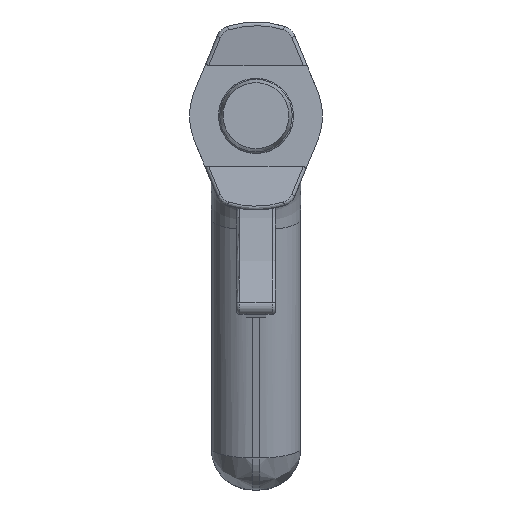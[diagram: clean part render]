
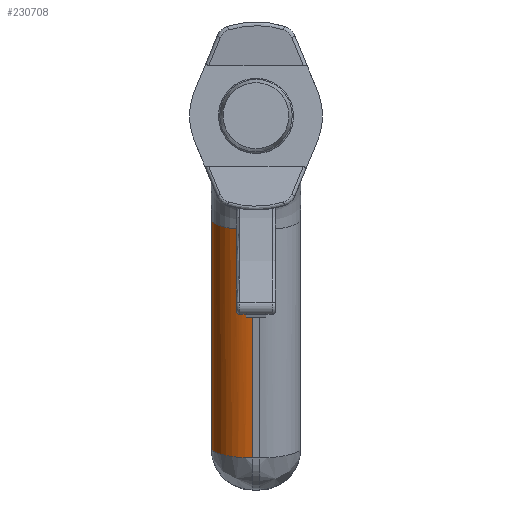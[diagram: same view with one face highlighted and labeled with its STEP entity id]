
A CAD part, top view. The second image highlights one B-rep face of the part: STEP entity #230708.
In plain terms, the highlighted cylindrical face has radius 12.497 mm (diameter 24.994 mm), a partial arc.
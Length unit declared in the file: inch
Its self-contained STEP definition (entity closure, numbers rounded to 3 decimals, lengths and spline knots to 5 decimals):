
#230368=CARTESIAN_POINT('',(-0.2345,-2.29104,-1.64583));
#230369=VERTEX_POINT('',#230368);
#230377=CARTESIAN_POINT('',(-0.118,-2.30264,-1.61445));
#230378=VERTEX_POINT('',#230377);
#230379=CARTESIAN_POINT('',(-0.118,-2.30264,-1.61445));
#230380=CARTESIAN_POINT('',(-0.1561,-2.30062,-1.62007));
#230381=CARTESIAN_POINT('',(-0.19428,-2.297,-1.63013));
#230382=CARTESIAN_POINT('',(-0.23187,-2.29144,-1.64479));
#230383=CARTESIAN_POINT('',(-0.23319,-2.29124,-1.64531));
#230384=CARTESIAN_POINT('',(-0.2345,-2.29104,-1.64583));
#230385=B_SPLINE_CURVE_WITH_KNOTS('',3,(#230379,#230380,#230381,#230382,#230383,#230384),.UNSPECIFIED.,.F.,.U.,(4,2,4),(4.14919,4.43144,4.4417),.UNSPECIFIED.);
#230386=EDGE_CURVE('',#230378,#230369,#230385,.T.);
#230403=CARTESIAN_POINT('',(-0.2345,-1.34785,-1.3931));
#230404=VERTEX_POINT('',#230403);
#230405=CARTESIAN_POINT('',(-0.2345,-2.29104,-1.64583));
#230406=DIRECTION('',(0.0,0.966,0.259));
#230407=VECTOR('',#230406,0.97647);
#230408=LINE('',#230405,#230407);
#230409=EDGE_CURVE('',#230369,#230404,#230408,.T.);
#230650=CARTESIAN_POINT('',(-0.042,-2.3352,-2.12642));
#230651=DIRECTION('',(0.0,-0.966,-0.259));
#230652=DIRECTION('',(-0.707,-0.183,0.683));
#230653=AXIS2_PLACEMENT_3D('',#230650,#230651,#230652);
#230654=CYLINDRICAL_SURFACE('',#230653,0.492);
#230655=ORIENTED_EDGE('',*,*,#230386,.T.);
#230656=ORIENTED_EDGE('',*,*,#230409,.T.);
#230657=CARTESIAN_POINT('',(-0.534,-1.23066,-1.83045));
#230658=VERTEX_POINT('',#230657);
#230659=CARTESIAN_POINT('',(-0.042,-1.23066,-1.83045));
#230660=DIRECTION('',(0.0,-0.966,-0.259));
#230661=DIRECTION('',(0.0,-0.259,0.966));
#230662=AXIS2_PLACEMENT_3D('',#230659,#230660,#230661);
#230663=CIRCLE('',#230662,0.492);
#230664=EDGE_CURVE('',#230404,#230658,#230663,.T.);
#230665=ORIENTED_EDGE('',*,*,#230664,.T.);
#230666=CARTESIAN_POINT('',(-0.534,-3.95218,-2.55968));
#230667=VERTEX_POINT('',#230666);
#230668=CARTESIAN_POINT('',(-0.534,-3.95218,-2.55968));
#230669=DIRECTION('',(0.0,0.966,0.259));
#230670=VECTOR('',#230669,2.81752);
#230671=LINE('',#230668,#230670);
#230672=EDGE_CURVE('',#230667,#230658,#230671,.T.);
#230673=ORIENTED_EDGE('',*,*,#230672,.F.);
#230674=CARTESIAN_POINT('',(-0.042,-4.07952,-2.08445));
#230675=VERTEX_POINT('',#230674);
#230676=CARTESIAN_POINT('',(-0.042,-3.95218,-2.55968));
#230677=DIRECTION('',(0.0,-0.966,-0.259));
#230678=DIRECTION('',(0.0,-0.259,0.966));
#230679=AXIS2_PLACEMENT_3D('',#230676,#230677,#230678);
#230680=CIRCLE('',#230679,0.492);
#230681=EDGE_CURVE('',#230675,#230667,#230680,.T.);
#230682=ORIENTED_EDGE('',*,*,#230681,.F.);
#230683=CARTESIAN_POINT('',(-0.042,-2.31629,-1.61199));
#230684=VERTEX_POINT('',#230683);
#230685=CARTESIAN_POINT('',(-0.042,-2.31629,-1.61199));
#230686=DIRECTION('',(0.0,-0.966,-0.259));
#230687=VECTOR('',#230686,1.82543);
#230688=LINE('',#230685,#230687);
#230689=EDGE_CURVE('',#230684,#230675,#230688,.T.);
#230690=ORIENTED_EDGE('',*,*,#230689,.F.);
#230691=CARTESIAN_POINT('',(-0.118,-2.31476,-1.61769));
#230692=VERTEX_POINT('',#230691);
#230693=CARTESIAN_POINT('',(-0.042,-2.18895,-2.08723));
#230694=DIRECTION('',(0.,-0.966,-0.259));
#230695=DIRECTION('',(-0.707,-0.183,0.683));
#230696=AXIS2_PLACEMENT_3D('',#230693,#230694,#230695);
#230697=CIRCLE('',#230696,0.492);
#230698=EDGE_CURVE('',#230684,#230692,#230697,.T.);
#230699=ORIENTED_EDGE('',*,*,#230698,.T.);
#230700=CARTESIAN_POINT('',(-0.118,-2.31476,-1.61769));
#230701=DIRECTION('',(0.0,0.966,0.259));
#230702=VECTOR('',#230701,0.01254);
#230703=LINE('',#230700,#230702);
#230704=EDGE_CURVE('',#230692,#230378,#230703,.T.);
#230705=ORIENTED_EDGE('',*,*,#230704,.T.);
#230706=EDGE_LOOP('',(#230655,#230656,#230665,#230673,#230682,#230690,#230699,#230705));
#230707=FACE_OUTER_BOUND('',#230706,.T.);
#230708=ADVANCED_FACE('',(#230707),#230654,.T.);
